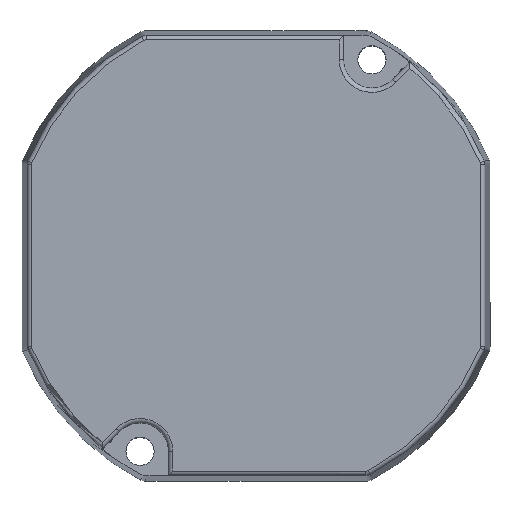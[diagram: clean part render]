
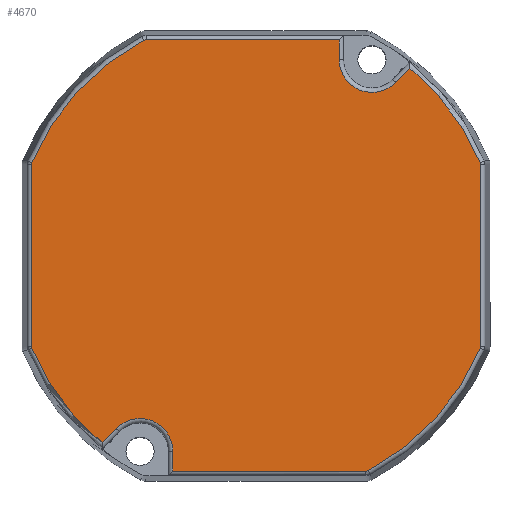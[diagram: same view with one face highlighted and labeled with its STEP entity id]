
A CAD part, top view. The second image highlights one B-rep face of the part: STEP entity #4670.
In plain terms, the highlighted planar face has unit normal (0, 0, 1).
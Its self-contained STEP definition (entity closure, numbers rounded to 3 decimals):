
#109=B_SPLINE_CURVE_WITH_KNOTS('',3,(#6806,#6807,#6808,#6809),
 .UNSPECIFIED.,.F.,.F.,(4,4),(0.,0.),.UNSPECIFIED.);
#110=B_SPLINE_CURVE_WITH_KNOTS('',3,(#6813,#6814,#6815,#6816),
 .UNSPECIFIED.,.F.,.F.,(4,4),(0.,0.),.UNSPECIFIED.);
#111=B_SPLINE_CURVE_WITH_KNOTS('',3,(#6820,#6821,#6822,#6823),
 .UNSPECIFIED.,.F.,.F.,(4,4),(0.,0.),.UNSPECIFIED.);
#112=B_SPLINE_CURVE_WITH_KNOTS('',3,(#6835,#6836,#6837,#6838),
 .UNSPECIFIED.,.F.,.F.,(4,4),(0.,0.),.UNSPECIFIED.);
#113=B_SPLINE_CURVE_WITH_KNOTS('',3,(#6842,#6843,#6844,#6845),
 .UNSPECIFIED.,.F.,.F.,(4,4),(0.,0.),.UNSPECIFIED.);
#114=B_SPLINE_CURVE_WITH_KNOTS('',3,(#6849,#6850,#6851,#6852),
 .UNSPECIFIED.,.F.,.F.,(4,4),(0.,0.),.UNSPECIFIED.);
#275=LINE('',#6797,#502);
#276=LINE('',#6802,#503);
#277=LINE('',#6804,#504);
#278=LINE('',#6818,#505);
#279=LINE('',#6827,#506);
#280=LINE('',#6831,#507);
#281=LINE('',#6833,#508);
#282=LINE('',#6847,#509);
#502=VECTOR('',#5600,1000.);
#503=VECTOR('',#5603,1000.);
#504=VECTOR('',#5604,1000.);
#505=VECTOR('',#5607,1000.);
#506=VECTOR('',#5610,1000.);
#507=VECTOR('',#5613,1000.);
#508=VECTOR('',#5614,1000.);
#509=VECTOR('',#5617,1000.);
#642=PLANE('',#4967);
#1147=ORIENTED_EDGE('',*,*,#1940,.T.);
#1148=ORIENTED_EDGE('',*,*,#1941,.T.);
#1149=ORIENTED_EDGE('',*,*,#1942,.T.);
#1150=ORIENTED_EDGE('',*,*,#1943,.T.);
#1151=ORIENTED_EDGE('',*,*,#1944,.T.);
#1152=ORIENTED_EDGE('',*,*,#1945,.T.);
#1153=ORIENTED_EDGE('',*,*,#1946,.T.);
#1154=ORIENTED_EDGE('',*,*,#1947,.T.);
#1155=ORIENTED_EDGE('',*,*,#1948,.T.);
#1156=ORIENTED_EDGE('',*,*,#1949,.T.);
#1157=ORIENTED_EDGE('',*,*,#1950,.T.);
#1158=ORIENTED_EDGE('',*,*,#1951,.T.);
#1159=ORIENTED_EDGE('',*,*,#1952,.T.);
#1160=ORIENTED_EDGE('',*,*,#1953,.T.);
#1161=ORIENTED_EDGE('',*,*,#1954,.T.);
#1162=ORIENTED_EDGE('',*,*,#1955,.T.);
#1163=ORIENTED_EDGE('',*,*,#1956,.T.);
#1164=ORIENTED_EDGE('',*,*,#1957,.T.);
#1165=ORIENTED_EDGE('',*,*,#1958,.T.);
#1166=ORIENTED_EDGE('',*,*,#1959,.T.);
#1940=EDGE_CURVE('',#2363,#2364,#275,.T.);
#1941=EDGE_CURVE('',#2364,#2365,#2553,.F.);
#1942=EDGE_CURVE('',#2365,#2366,#276,.T.);
#1943=EDGE_CURVE('',#2366,#2367,#277,.F.);
#1944=EDGE_CURVE('',#2367,#2368,#109,.T.);
#1945=EDGE_CURVE('',#2368,#2369,#2554,.T.);
#1946=EDGE_CURVE('',#2369,#2370,#110,.T.);
#1947=EDGE_CURVE('',#2370,#2371,#278,.F.);
#1948=EDGE_CURVE('',#2371,#2372,#111,.T.);
#1949=EDGE_CURVE('',#2372,#2373,#2555,.T.);
#1950=EDGE_CURVE('',#2373,#2374,#279,.T.);
#1951=EDGE_CURVE('',#2374,#2375,#2556,.F.);
#1952=EDGE_CURVE('',#2375,#2376,#280,.T.);
#1953=EDGE_CURVE('',#2376,#2377,#281,.F.);
#1954=EDGE_CURVE('',#2377,#2378,#112,.T.);
#1955=EDGE_CURVE('',#2378,#2379,#2557,.T.);
#1956=EDGE_CURVE('',#2379,#2380,#113,.T.);
#1957=EDGE_CURVE('',#2380,#2381,#282,.F.);
#1958=EDGE_CURVE('',#2381,#2382,#114,.T.);
#1959=EDGE_CURVE('',#2382,#2363,#2558,.T.);
#2363=VERTEX_POINT('',#6798);
#2364=VERTEX_POINT('',#6799);
#2365=VERTEX_POINT('',#6801);
#2366=VERTEX_POINT('',#6803);
#2367=VERTEX_POINT('',#6805);
#2368=VERTEX_POINT('',#6810);
#2369=VERTEX_POINT('',#6812);
#2370=VERTEX_POINT('',#6817);
#2371=VERTEX_POINT('',#6819);
#2372=VERTEX_POINT('',#6824);
#2373=VERTEX_POINT('',#6826);
#2374=VERTEX_POINT('',#6828);
#2375=VERTEX_POINT('',#6830);
#2376=VERTEX_POINT('',#6832);
#2377=VERTEX_POINT('',#6834);
#2378=VERTEX_POINT('',#6839);
#2379=VERTEX_POINT('',#6841);
#2380=VERTEX_POINT('',#6846);
#2381=VERTEX_POINT('',#6848);
#2382=VERTEX_POINT('',#6853);
#2553=CIRCLE('',#4968,3.705);
#2554=CIRCLE('',#4969,27.474);
#2555=CIRCLE('',#4970,27.474);
#2556=CIRCLE('',#4971,3.705);
#2557=CIRCLE('',#4972,27.474);
#2558=CIRCLE('',#4973,27.474);
#2725=EDGE_LOOP('',(#1147,#1148,#1149,#1150,#1151,#1152,#1153,#1154,#1155,
#1156,#1157,#1158,#1159,#1160,#1161,#1162,#1163,#1164,#1165,#1166));
#2996=FACE_BOUND('',#2725,.T.);
#4670=ADVANCED_FACE('',(#2996),#642,.T.);
#4967=AXIS2_PLACEMENT_3D('',#6796,#5598,#5599);
#4968=AXIS2_PLACEMENT_3D('',#6800,#5601,#5602);
#4969=AXIS2_PLACEMENT_3D('',#6811,#5605,#5606);
#4970=AXIS2_PLACEMENT_3D('',#6825,#5608,#5609);
#4971=AXIS2_PLACEMENT_3D('',#6829,#5611,#5612);
#4972=AXIS2_PLACEMENT_3D('',#6840,#5615,#5616);
#4973=AXIS2_PLACEMENT_3D('',#6854,#5618,#5619);
#5598=DIRECTION('',(0.,0.,1.));
#5599=DIRECTION('',(0.,1.,0.));
#5600=DIRECTION('',(-0.707,-0.707,0.));
#5601=DIRECTION('',(0.,0.,1.));
#5602=DIRECTION('',(0.,1.,0.));
#5603=DIRECTION('',(0.,1.,0.));
#5604=DIRECTION('',(1.,0.,0.));
#5605=DIRECTION('',(0.,0.,1.));
#5606=DIRECTION('',(0.,1.,0.));
#5607=DIRECTION('',(0.,1.,0.));
#5608=DIRECTION('',(0.,0.,1.));
#5609=DIRECTION('',(0.,1.,0.));
#5610=DIRECTION('',(0.707,0.707,0.));
#5611=DIRECTION('',(0.,0.,1.));
#5612=DIRECTION('',(0.,1.,0.));
#5613=DIRECTION('',(0.,-1.,0.));
#5614=DIRECTION('',(-1.,0.,0.));
#5615=DIRECTION('',(0.,0.,1.));
#5616=DIRECTION('',(0.,1.,0.));
#5617=DIRECTION('',(0.,-1.,0.));
#5618=DIRECTION('',(0.,0.,1.));
#5619=DIRECTION('',(0.,1.,0.));
#6796=CARTESIAN_POINT('',(-7.691,-0.52,34.325));
#6797=CARTESIAN_POINT('',(-9.592,1.381,34.325));
#6798=CARTESIAN_POINT('',(9.742,20.715,34.325));
#6799=CARTESIAN_POINT('',(8.12,19.094,34.325));
#6800=CARTESIAN_POINT('',(5.443,21.655,34.325));
#6801=CARTESIAN_POINT('',(1.738,21.655,34.325));
#6802=CARTESIAN_POINT('',(1.738,-0.52,34.325));
#6803=CARTESIAN_POINT('',(1.738,23.904,34.325));
#6804=CARTESIAN_POINT('',(-20.148,23.904,34.325));
#6805=CARTESIAN_POINT('',(-20.15,23.904,34.325));
#6806=CARTESIAN_POINT('',(-20.15,23.904,34.325));
#6807=CARTESIAN_POINT('',(-20.231,23.904,34.325));
#6808=CARTESIAN_POINT('',(-20.31,23.885,34.325));
#6809=CARTESIAN_POINT('',(-20.381,23.848,34.325));
#6810=CARTESIAN_POINT('',(-20.381,23.848,34.325));
#6811=CARTESIAN_POINT('',(-7.691,-0.52,34.325));
#6812=CARTESIAN_POINT('',(-33.077,9.986,34.325));
#6813=CARTESIAN_POINT('',(-33.077,9.986,34.325));
#6814=CARTESIAN_POINT('',(-33.102,9.925,34.325));
#6815=CARTESIAN_POINT('',(-33.115,9.861,34.325));
#6816=CARTESIAN_POINT('',(-33.115,9.795,34.325));
#6817=CARTESIAN_POINT('',(-33.115,9.795,34.325));
#6818=CARTESIAN_POINT('',(-33.115,-10.833,34.325));
#6819=CARTESIAN_POINT('',(-33.115,-10.834,34.325));
#6820=CARTESIAN_POINT('',(-33.115,-10.834,34.325));
#6821=CARTESIAN_POINT('',(-33.115,-10.9,34.325));
#6822=CARTESIAN_POINT('',(-33.102,-10.965,34.325));
#6823=CARTESIAN_POINT('',(-33.077,-11.025,34.325));
#6824=CARTESIAN_POINT('',(-33.077,-11.025,34.325));
#6825=CARTESIAN_POINT('',(-7.691,-0.52,34.325));
#6826=CARTESIAN_POINT('',(-25.124,-21.754,34.325));
#6827=CARTESIAN_POINT('',(-5.79,-2.421,34.325));
#6828=CARTESIAN_POINT('',(-23.502,-20.133,34.325));
#6829=CARTESIAN_POINT('',(-20.825,-22.694,34.325));
#6830=CARTESIAN_POINT('',(-17.12,-22.694,34.325));
#6831=CARTESIAN_POINT('',(-17.12,-0.52,34.325));
#6832=CARTESIAN_POINT('',(-17.12,-24.944,34.325));
#6833=CARTESIAN_POINT('',(4.766,-24.944,34.325));
#6834=CARTESIAN_POINT('',(4.769,-24.944,34.325));
#6835=CARTESIAN_POINT('',(4.769,-24.944,34.325));
#6836=CARTESIAN_POINT('',(4.849,-24.944,34.325));
#6837=CARTESIAN_POINT('',(4.928,-24.924,34.325));
#6838=CARTESIAN_POINT('',(4.999,-24.887,34.325));
#6839=CARTESIAN_POINT('',(4.999,-24.887,34.325));
#6840=CARTESIAN_POINT('',(-7.691,-0.52,34.325));
#6841=CARTESIAN_POINT('',(17.695,-11.025,34.325));
#6842=CARTESIAN_POINT('',(17.695,-11.025,34.325));
#6843=CARTESIAN_POINT('',(17.72,-10.965,34.325));
#6844=CARTESIAN_POINT('',(17.733,-10.9,34.325));
#6845=CARTESIAN_POINT('',(17.733,-10.834,34.325));
#6846=CARTESIAN_POINT('',(17.733,-10.834,34.325));
#6847=CARTESIAN_POINT('',(17.733,9.793,34.325));
#6848=CARTESIAN_POINT('',(17.733,9.795,34.325));
#6849=CARTESIAN_POINT('',(17.733,9.795,34.325));
#6850=CARTESIAN_POINT('',(17.733,9.861,34.325));
#6851=CARTESIAN_POINT('',(17.72,9.925,34.325));
#6852=CARTESIAN_POINT('',(17.695,9.986,34.325));
#6853=CARTESIAN_POINT('',(17.695,9.986,34.325));
#6854=CARTESIAN_POINT('',(-7.691,-0.52,34.325));
